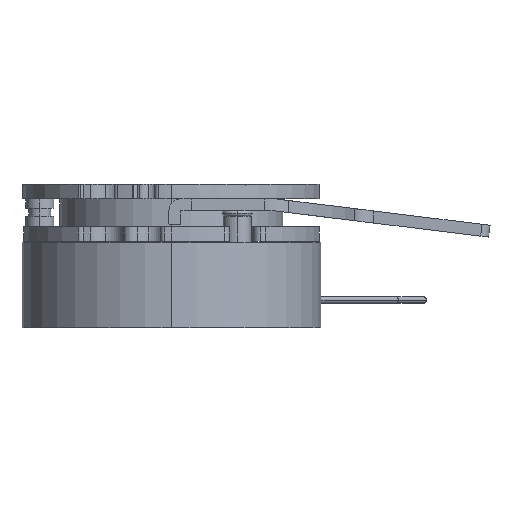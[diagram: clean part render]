
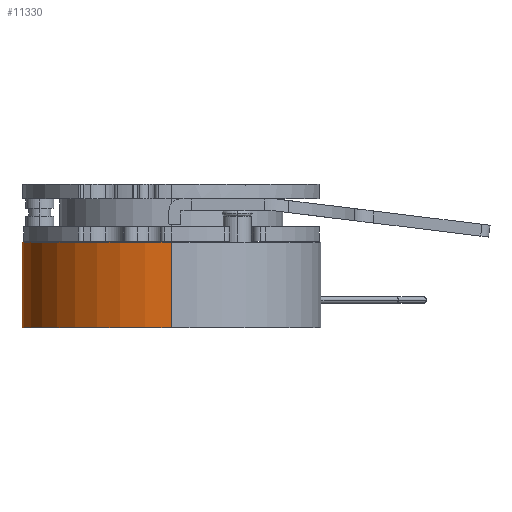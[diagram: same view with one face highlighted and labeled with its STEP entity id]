
A CAD part, left-side view. The second image highlights one B-rep face of the part: STEP entity #11330.
In plain terms, the highlighted cylindrical face has radius 37.5 mm (diameter 75 mm), a partial arc.
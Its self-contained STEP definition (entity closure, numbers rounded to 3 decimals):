
#145 = CARTESIAN_POINT ( 'NONE',  ( -37.5, 0., 21.5 ) ) ;
#162 = DIRECTION ( 'NONE',  ( 0., 0., -1. ) ) ;
#180 = DIRECTION ( 'NONE',  ( 0., 0., -1. ) ) ;
#181 = CARTESIAN_POINT ( 'NONE',  ( 37.5, 0., 21.5 ) ) ;
#199 = DIRECTION ( 'NONE',  ( -1., 0., 0. ) ) ;
#200 = DIRECTION ( 'NONE',  ( 0., 0., -1. ) ) ;
#201 = CARTESIAN_POINT ( 'NONE',  ( 0., 0., 21.5 ) ) ;
#325 = DIRECTION ( 'NONE',  ( -1., 0., 0. ) ) ;
#328 = DIRECTION ( 'NONE',  ( 0., 0., 1. ) ) ;
#330 = CARTESIAN_POINT ( 'NONE',  ( 0., 0., 0. ) ) ;
#3018 = EDGE_LOOP ( 'NONE', ( #14683, #14373, #14600, #14406 ) ) ;
#5771 = CYLINDRICAL_SURFACE ( 'NONE', #10621, 37.5 ) ;
#5812 = FACE_OUTER_BOUND ( 'NONE', #3018, .T. ) ;
#6369 = EDGE_CURVE ( 'NONE', #16375, #16565, #9282, .T. ) ;
#6461 = EDGE_CURVE ( 'NONE', #16367, #16332, #9129, .T. ) ;
#6468 = EDGE_CURVE ( 'NONE', #16332, #16375, #9118, .T. ) ;
#6475 = EDGE_CURVE ( 'NONE', #16367, #16565, #9107, .T. ) ;
#7129 = AXIS2_PLACEMENT_3D ( 'NONE', #201, #200, #199 ) ;
#9104 = VECTOR ( 'NONE', #162, 1000. ) ;
#9107 = LINE ( 'NONE', #145, #9104 ) ;
#9114 = VECTOR ( 'NONE', #180, 1000. ) ;
#9118 = LINE ( 'NONE', #181, #9114 ) ;
#9129 = CIRCLE ( 'NONE', #7129, 37.5 ) ;
#9282 = CIRCLE ( 'NONE', #13349, 37.5 ) ;
#10621 = AXIS2_PLACEMENT_3D ( 'NONE', #12626, #12627, #12635 ) ;
#11330 = ADVANCED_FACE ( 'NONE', ( #5812 ), #5771, .T. ) ;
#12626 = CARTESIAN_POINT ( 'NONE',  ( 0., 0., 21.5 ) ) ;
#12627 = DIRECTION ( 'NONE',  ( 0., 0., -1. ) ) ;
#12635 = DIRECTION ( 'NONE',  ( -1., 0., 0. ) ) ;
#12899 = CARTESIAN_POINT ( 'NONE',  ( 37.5, 0., 21.5 ) ) ;
#12925 = CARTESIAN_POINT ( 'NONE',  ( -37.5, 0., 21.5 ) ) ;
#12931 = CARTESIAN_POINT ( 'NONE',  ( 37.5, 0., 0. ) ) ;
#13064 = CARTESIAN_POINT ( 'NONE',  ( -37.5, 0., 0. ) ) ;
#13349 = AXIS2_PLACEMENT_3D ( 'NONE', #330, #328, #325 ) ;
#14373 = ORIENTED_EDGE ( 'NONE', *, *, #6468, .T. ) ;
#14406 = ORIENTED_EDGE ( 'NONE', *, *, #6475, .F. ) ;
#14600 = ORIENTED_EDGE ( 'NONE', *, *, #6369, .T. ) ;
#14683 = ORIENTED_EDGE ( 'NONE', *, *, #6461, .T. ) ;
#16332 = VERTEX_POINT ( 'NONE', #12899 ) ;
#16367 = VERTEX_POINT ( 'NONE', #12925 ) ;
#16375 = VERTEX_POINT ( 'NONE', #12931 ) ;
#16565 = VERTEX_POINT ( 'NONE', #13064 ) ;
